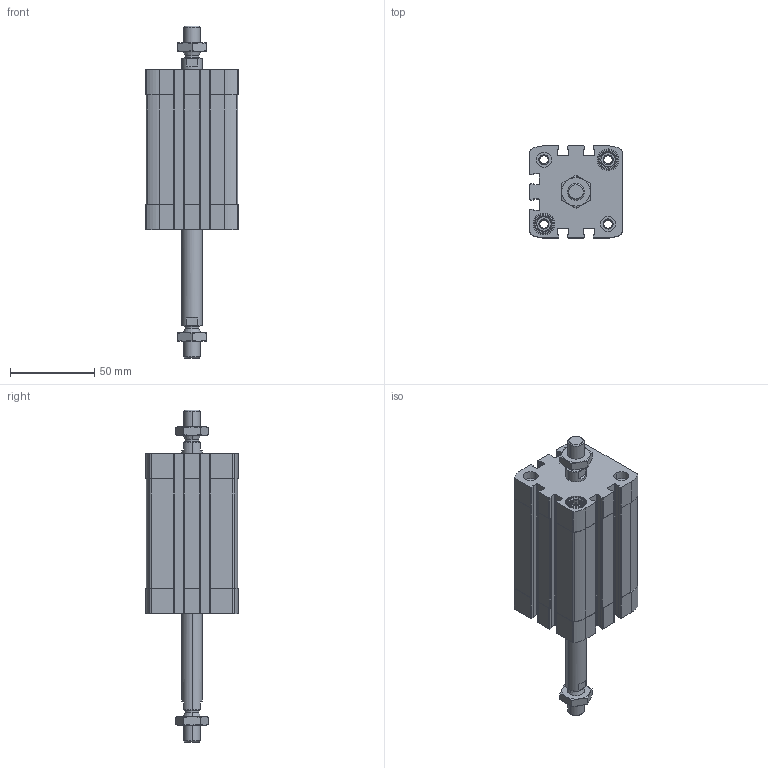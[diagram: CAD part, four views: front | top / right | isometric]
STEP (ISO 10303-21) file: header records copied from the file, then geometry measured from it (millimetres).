
FILE_DESCRIPTION (( 'STEP AP203' ), '1' );
FILE_NAME ('CCN40-50-P.STEP', '2020-06-22T18:53:22', ( '' ), ( '' ), 'SwSTEP 2.0', 'SolidWorks 2019', '' );
FILE_SCHEMA (( 'CONFIG_CONTROL_DESIGN' ));
Length unit declared in the file: millimetre
Products named in the file (1): CCN40-50-P
Bounding box: 54.5 x 54.5 x 196.6 mm (x, y, z)
Volume: 199053.9 mm3; surface area: 65156.9 mm2
Topology: 4 solids, 4 shells, 536 faces, 1418 edges, 922 vertices
Faces by surface type: plane 288, cylinder 180, cone 60, torus 8
Entity records: 17391 total; most frequent: CARTESIAN_POINT 3745, DIRECTION 2902, ORIENTED_EDGE 2836, EDGE_CURVE 1418, AXIS2_PLACEMENT_3D 1071, VERTEX_POINT 922, LINE 760, VECTOR 760
